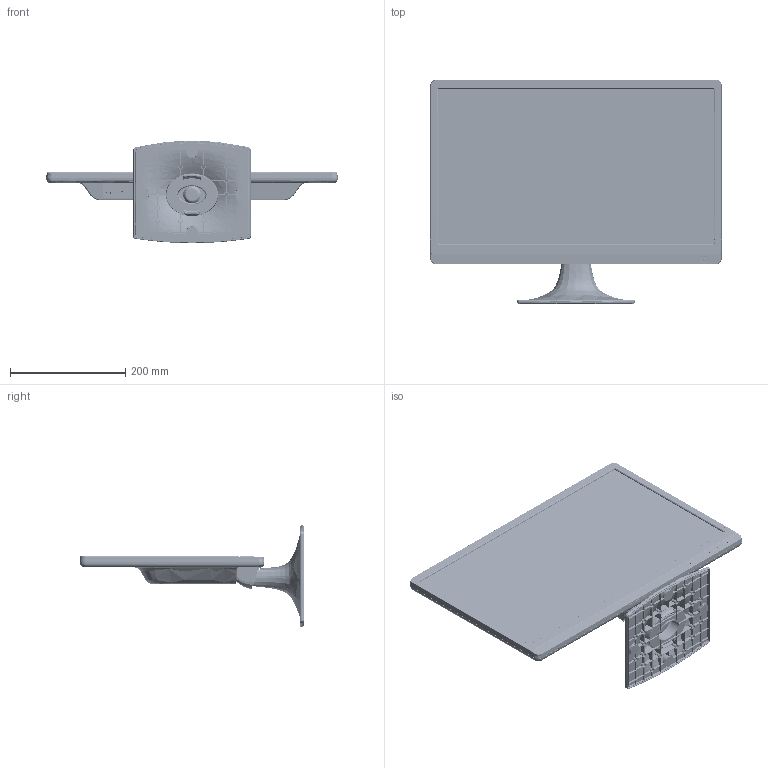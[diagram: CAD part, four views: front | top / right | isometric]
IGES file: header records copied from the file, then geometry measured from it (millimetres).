
Start section: SolidWorks IGES file using analytic representation for surfaces
Global section: file name: C:\Richard Folder\1195 Building\1195 Rich Directory\Cindy - 3D Drawings\ECO-1006662\997-6897-00 - PLL2210W\STP\Final\997-6897-00_igs.IGS; native system: SolidWorks 2014; preprocessor: SolidWorks 2014; author: RDavenport; date: 150501.105856; units: millimetre
Bounding box: 506.59 x 390.02 x 177.79 mm (x, y, z)
Surface area: 1788635.3 mm2 (no closed solid volume)
Topology: 0 solids, 0 shells, 11466 faces, 109737 edges, 109592 vertices
Faces by surface type: bspline 8191, revolution 3275
